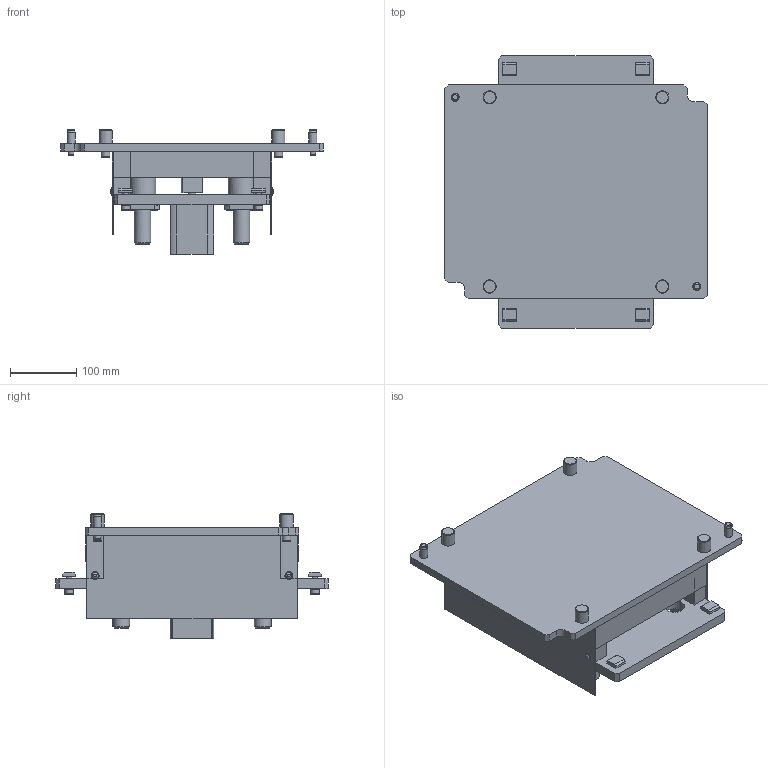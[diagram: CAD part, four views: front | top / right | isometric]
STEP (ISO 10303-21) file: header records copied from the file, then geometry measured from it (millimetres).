
FILE_DESCRIPTION(/* description */ (''),/* implementation_level */ '2;1');
FILE_NAME(/* name */ 'C:\Marketing\01_Versamove-SPU_STEP-Dateien-Homepage\VersamoveStandard\B400\STEP-Dateien\Positioniereinheit_PE-2045_B400.stp',/* time_stamp */ '2016-12-21T10:13:33+01:00',/* author */ ('herbert.engels'),/* organization */ (''),/* preprocessor_version */ 'ST-DEVELOPER v15.6',/* originating_system */ 'Autodesk Inventor 2015',/* authorisation */ '');
FILE_SCHEMA (('CONFIG_CONTROL_DESIGN'));
Length unit declared in the file: millimetre
Products named in the file (1): Positioniereinheit_PE-2045_B400
Bounding box: 395 x 410 x 187.7 mm (x, y, z)
Volume: 3893259 mm3; surface area: 760321.8 mm2
Topology: 1 solids, 1 shells, 337 faces, 757 edges, 498 vertices
Faces by surface type: plane 184, cylinder 92, cone 31, torus 26, sphere 4
Full cylindrical faces by diameter (mm): 5 x2, 8 x12, 8.5 x4, 10 x2, 10.2 x1, 11.8 x4, 12 x3, 13 x8, 15 x4, 16 x1, 20 x4, 25 x4, 26.5 x2, 29 x2, 30 x2, 35 x1, 40 x2
Entity records: 9231 total; most frequent: CARTESIAN_POINT 1548, DIRECTION 1538, ORIENTED_EDGE 1270, EDGE_CURVE 635, AXIS2_PLACEMENT_3D 597, EDGE_LOOP 524, VERTEX_POINT 479, LINE 344
